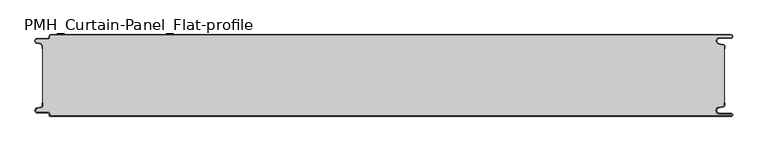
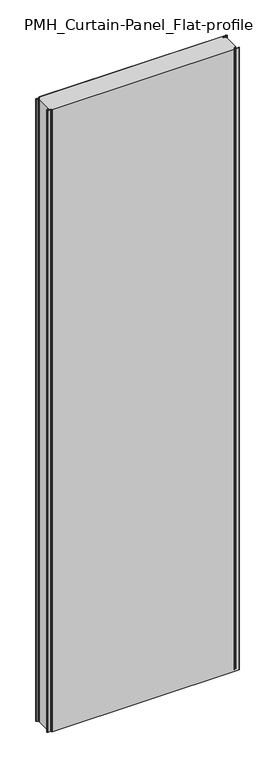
"""IFC4 building model written with IfcOpenShell, lengths in millimetres: plate geometry, PMH_Curtain-Panel_Flat-profile : ACH_PMH_Acoustic-Sectioning-Panel_120M."""

import ifcopenshell
import ifcopenshell.guid

model = None  # the IFC model being written
_history = None  # IfcOwnerHistory: only IFC2X3 demands one
_inside = {}  # id of a spatial element -> (the spatial element, [elements in it])
_under = {}  # id of a project, library or spatial element -> (it, [spatial elements below it])
_declared = {}  # id of a project -> (the project, [libraries it declares])
_typed = {}  # id of a type object -> (the type object, [elements of that type])
_made_of = {}  # id of a material, layer set ... -> (it, [elements and type objects made of it])


def new_model(schema):
    """Start an empty IFC model of exactly this schema.

    Asked for "IFC4X3", IfcOpenShell would pick the latest addendum, in which some entities
    have other attributes; the version numbers below select the first issue.
    IFC2X3 requires an IfcOwnerHistory on every rooted entity: one is made here for all.
    """
    global model, _history
    if schema == "IFC4X3":
        model = ifcopenshell.file(schema_version=(4, 3, 0, 0))
    else:
        model = ifcopenshell.file(schema=schema)
    _inside.clear()
    _under.clear()
    _declared.clear()
    _typed.clear()
    _made_of.clear()
    _history = None
    if model.schema == "IFC2X3":
        org = make("IfcOrganization", Name="unknown")
        user = make(
            "IfcPersonAndOrganization",
            ThePerson=make("IfcPerson", FamilyName="unknown"),
            TheOrganization=org,
        )
        app = make(
            "IfcApplication",
            ApplicationDeveloper=org,
            Version="unknown",
            ApplicationFullName="unknown",
            ApplicationIdentifier="unknown",
        )
        _history = make(
            "IfcOwnerHistory",
            OwningUser=user,
            OwningApplication=app,
            ChangeAction="ADDED",
            CreationDate=0,
        )
    return model


def make(cls, **values):
    """One entity of the class cls with the attributes given. An attribute that is None is left unset."""
    return model.create_entity(
        cls, **{name: value for name, value in values.items() if value is not None}
    )


def rooted(cls, **values):
    """An entity with a GlobalId (a new one), such as an element, a storey or a relation."""
    return make(cls, GlobalId=ifcopenshell.guid.new(), OwnerHistory=_history, **values)


def si_unit(unit_type, name, prefix=None):
    """IfcSIUnit, for example si_unit("LENGTHUNIT", "METRE", prefix="MILLI")."""
    return make("IfcSIUnit", UnitType=unit_type, Prefix=prefix, Name=name)


def assignment(units):
    """IfcUnitAssignment: the units of a project."""
    return None if units is None else make("IfcUnitAssignment", Units=units)


def point(xyz):
    """IfcCartesianPoint."""
    return None if xyz is None else make("IfcCartesianPoint", Coordinates=xyz)


def direction(xyz):
    """IfcDirection."""
    return None if xyz is None else make("IfcDirection", DirectionRatios=xyz)


def frame(location, z_axis=None, x_axis=None):
    """IfcAxis2Placement3D, a coordinate frame: its origin and axes. An axis left out is left unset."""
    return make(
        "IfcAxis2Placement3D",
        Location=point(location),
        Axis=direction(z_axis),
        RefDirection=direction(x_axis),
    )


def frame_2d(location, x_axis=None):
    """IfcAxis2Placement2D, a coordinate frame in the plane: its origin and x axis."""
    return make(
        "IfcAxis2Placement2D", Location=point(location), RefDirection=direction(x_axis)
    )


def origin():
    """The frame at (0, 0, 0) with its axes left unset."""
    return frame((0.0, 0.0, 0.0))


def origin_with_axes():
    """The frame at (0, 0, 0) with the z axis (0, 0, 1) and the x axis (1, 0, 0) written out."""
    return frame((0.0, 0.0, 0.0), z_axis=(0.0, 0.0, 1.0), x_axis=(1.0, 0.0, 0.0))


def place(relative_to, where):
    """IfcLocalPlacement: puts the frame where relative to a parent placement (None: the world)."""
    return make(
        "IfcLocalPlacement", PlacementRelTo=relative_to, RelativePlacement=where
    )


def context(
    kind, dimensions, precision=None, world=None, true_north=None, identifier=None
):
    """IfcGeometricRepresentationContext, for example the 3D "Model" context."""
    return make(
        "IfcGeometricRepresentationContext",
        ContextIdentifier=identifier,
        ContextType=kind,
        CoordinateSpaceDimension=dimensions,
        Precision=precision,
        WorldCoordinateSystem=world,
        TrueNorth=true_north,
    )


def project(units=None, contexts=None):
    """IfcProject with its units and contexts."""
    return rooted(
        "IfcProject",
        Name="project",
        RepresentationContexts=contexts,
        UnitsInContext=assignment(units),
    )


def spatial(cls, under=None, at=None, **own):
    """A site, building, storey or space (cls), placed at a placement, below another one or the project."""
    s = rooted(cls, ObjectPlacement=at, **own)
    if under is not None:
        _under.setdefault(under.id(), (under, []))[1].append(s)
    return s


def polyline(points):
    """IfcPolyline through the points."""
    return make("IfcPolyline", Points=[point(p) for p in points])


def circle_curve(where, radius):
    """IfcCircle in the frame where."""
    return make("IfcCircle", Position=where, Radius=radius)


def trimmed(basis, trim1, trim2, sense, master):
    """IfcTrimmedCurve: the piece of a basis curve between two trims."""
    return make(
        "IfcTrimmedCurve",
        BasisCurve=basis,
        Trim1=trim1,
        Trim2=trim2,
        SenseAgreement=sense,
        MasterRepresentation=master,
    )


def segment(curve, same_sense, transition):
    """IfcCompositeCurveSegment."""
    return make(
        "IfcCompositeCurveSegment",
        Transition=transition,
        SameSense=same_sense,
        ParentCurve=curve,
    )


def composite_curve(segments, self_intersect=None):
    """IfcCompositeCurve: segments joined end to end."""
    return make("IfcCompositeCurve", Segments=segments, SelfIntersect=self_intersect)


def outline(outer, holes=None, kind="AREA"):
    """IfcArbitraryClosedProfileDef: a profile drawn as a closed curve; with holes, ...WithVoids."""
    if holes is None:
        return make("IfcArbitraryClosedProfileDef", ProfileType=kind, OuterCurve=outer)
    return make(
        "IfcArbitraryProfileDefWithVoids",
        ProfileType=kind,
        OuterCurve=outer,
        InnerCurves=holes,
    )


def extrude(swept, where, along, depth):
    """IfcExtrudedAreaSolid: the profile swept, set in the frame where, extruded along a direction by depth."""
    return make(
        "IfcExtrudedAreaSolid",
        SweptArea=swept,
        Position=where,
        ExtrudedDirection=direction(along),
        Depth=depth,
    )


def shape(context_of_items, identifier, shape_type, items):
    """IfcShapeRepresentation: the items that make up one representation, for example the "Body"."""
    return make(
        "IfcShapeRepresentation",
        ContextOfItems=context_of_items,
        RepresentationIdentifier=identifier,
        RepresentationType=shape_type,
        Items=items,
    )


def source(mapping_origin, context_of_items, identifier, shape_type, items):
    """IfcRepresentationMap: a shape defined once, which mapped items show again and again."""
    return make(
        "IfcRepresentationMap",
        MappingOrigin=mapping_origin,
        MappedRepresentation=shape(context_of_items, identifier, shape_type, items),
    )


def transform(
    local_origin,
    x_axis=None,
    y_axis=None,
    z_axis=None,
    scale=None,
    scale2=None,
    scale3=None,
    uniform=True,
):
    """IfcCartesianTransformationOperator3D, or its non-uniform kind. x_axis, y_axis, z_axis: its Axis1, 2, 3."""
    if uniform:
        return make(
            "IfcCartesianTransformationOperator3D",
            Axis1=direction(x_axis),
            Axis2=direction(y_axis),
            LocalOrigin=point(local_origin),
            Scale=scale,
            Axis3=direction(z_axis),
        )
    return make(
        "IfcCartesianTransformationOperator3DnonUniform",
        Axis1=direction(x_axis),
        Axis2=direction(y_axis),
        LocalOrigin=point(local_origin),
        Scale=scale,
        Axis3=direction(z_axis),
        Scale2=scale2,
        Scale3=scale3,
    )


def mapped(mapping_source, mapping_target):
    """IfcMappedItem: shows the shape of a source again, moved by a transform."""
    return make(
        "IfcMappedItem", MappingSource=mapping_source, MappingTarget=mapping_target
    )


def made_of(thing, what):
    """Note that an element or type object is made of a material, layer set ...; save() writes the relation."""
    if what is not None:
        _made_of.setdefault(what.id(), (what, []))[1].append(thing)
    return thing


def element(
    cls,
    number,
    at=None,
    inside=None,
    cuts=None,
    type_object=None,
    material=None,
    context=None,
    identifier="Body",
    shape_type=None,
    held_by="IfcProductDefinitionShape",
    body=None,
    shapes=None,
    **own,
):
    """One element of the class cls, such as IfcWall. Its Tag is "e" and its number.

    at: its placement. inside: the storey or other place that contains it. cuts: it is an
    opening in that element (IfcRelVoidsElement). A single representation is given by context,
    identifier, shape_type and body (its items); several are given by shapes. held_by: the class
    of the entity that holds the representations. save() writes the other relations.
    """
    e = rooted(cls, Tag="e%d" % number, ObjectPlacement=at, **own)
    if body is not None:
        shapes = [shape(context, identifier, shape_type, body)]
    if shapes is not None:
        e.Representation = make(held_by, Representations=shapes)
    if inside is not None:
        _inside.setdefault(inside.id(), (inside, []))[1].append(e)
    if cuts is not None:
        rooted(
            "IfcRelVoidsElement", RelatingBuildingElement=cuts, RelatedOpeningElement=e
        )
    if type_object is not None:
        _typed.setdefault(type_object.id(), (type_object, []))[1].append(e)
    return made_of(e, material)


def aggregate(whole, parts):
    """IfcRelAggregates: a whole, such as a stair, and the parts it consists of."""
    return rooted("IfcRelAggregates", RelatingObject=whole, RelatedObjects=parts)


def save(model, path):
    """Write the relations noted so far, then the file.

    IfcRelAggregates (storeys below a building ...), IfcRelContainedInSpatialStructure (elements
    in a storey), IfcRelDefinesByType, IfcRelAssociatesMaterial and IfcRelDeclares: one each for
    every whole, place, type object, material and project.
    """
    for whole, parts in _under.values():
        aggregate(whole, parts)
    for where, things in _inside.values():
        rooted(
            "IfcRelContainedInSpatialStructure",
            RelatedElements=things,
            RelatingStructure=where,
        )
    for kind, things in _typed.values():
        rooted("IfcRelDefinesByType", RelatedObjects=things, RelatingType=kind)
    for what, things in _made_of.values():
        rooted("IfcRelAssociatesMaterial", RelatedObjects=things, RelatingMaterial=what)
    for by, libraries in _declared.values():
        rooted("IfcRelDeclares", RelatingContext=by, RelatedDefinitions=libraries)
    model.write(path)


def plane_surface(at):
    """IfcPlane: the flat surface through the origin of the frame at, square to its z axis."""
    return make("IfcPlane", Position=at)


def cylinder_surface(at, radius):
    """IfcCylindricalSurface: all points at the distance radius from the z axis of the frame at."""
    return make("IfcCylindricalSurface", Position=at, Radius=radius)


def revolved_surface(curve, axis_point, axis_direction):
    """IfcSurfaceOfRevolution: the curve turned about the line through axis_point along axis_direction."""
    return make(
        "IfcSurfaceOfRevolution",
        SweptCurve=make("IfcArbitraryOpenProfileDef", ProfileType="CURVE", Curve=curve),
        AxisPosition=make("IfcAxis1Placement", Location=point(axis_point), Axis=direction(axis_direction)),
    )


def advanced_brep(points, edges, surfaces, faces):
    """IfcAdvancedBrep: a solid bounded by faces that lie on surfaces and meet in shared edges.

    An edge is (start, end): straight between two places in points (the first is 0);
    or (start, end, curve); or (start, end, curve, False) where it runs against its curve.
    A face is (place in surfaces, loops), or (place, loops, False) where it looks against
    its surface's normal. A loop lists edges by number (the first is 1), with a minus sign
    where the edge is run from its end to its start. The first loop is the outer one.
    """
    corners = [point(p) for p in points]
    vertices = [make("IfcVertexPoint", VertexGeometry=c) for c in corners]
    made = []
    for start, end, *more in edges:
        made.append(
            make(
                "IfcEdgeCurve",
                EdgeStart=vertices[start],
                EdgeEnd=vertices[end],
                EdgeGeometry=more[0] if more else make("IfcPolyline", Points=[corners[start], corners[end]]),
                SameSense=more[1] if len(more) > 1 else True,
            )
        )
    hull = []
    for where, loops, *sense in faces:
        bounds = []
        for j, loop in enumerate(loops):
            ring = [make("IfcOrientedEdge", EdgeElement=made[abs(k) - 1], Orientation=k > 0) for k in loop]
            bounds.append(
                make(
                    "IfcFaceOuterBound" if j == 0 else "IfcFaceBound",
                    Bound=make("IfcEdgeLoop", EdgeList=ring),
                    Orientation=True,
                )
            )
        hull.append(make("IfcAdvancedFace", Bounds=bounds, FaceSurface=surfaces[where], SameSense=sense[0] if sense else True))
    return make("IfcAdvancedBrep", Outer=make("IfcClosedShell", CfsFaces=hull))


def pmh_curtain_panel_flat_profile_d1ff0061(model_context):
    return source(origin(), model_context, "Body", "SolidModel", [
        advanced_brep(
        [(508.1, 0.0, 3500.0), (510.6, 2.5000002, 3500.0), (508.1, 5.0, 3500.0), (491.1, 5.0, 3500.0), (490.405407, 12.939231, 3500.0), (496.8514855, 14.0758491, 3500.0), (499.0, 16.6363492, 3500.0), (499.0, 20.0, 3500.0), (498.2, 20.0, 3500.0), (498.2, 16.6363492, 3500.0), (496.7125669, 14.8636953, 3500.0), (490.2664884, 13.7270771, 3500.0), (491.1, 4.2, 3500.0), (508.1, 4.2, 3500.0), (508.1, 0.8, 3500.0), (-487.4, 0.8, 3500.0), (-488.6, 2.0, 3500.0), (-488.6, 3.4, 3500.0), (-491.4, 6.2, 3500.0), (-506.9, 6.2, 3500.0), (-507.529863, 11.7282362, 3500.0), (-501.370137, 13.150321, 3500.0), (-499.2, 15.878557, 3500.0), (-499.2, 20.0, 3500.0), (-500.0, 20.0, 3500.0), (-500.0, 15.878557, 3500.0), (-501.5500978, 13.9298169, 3500.0), (-507.7098239, 12.507732, 3500.0), (-506.9, 5.4, 3500.0), (-491.4, 5.4, 3500.0), (-489.4, 3.4, 3500.0), (-489.4, 2.0, 3500.0), (-487.4, 0.0, 3500.0), (-487.4, 0.0, 0.0), (-489.4, 2.0, 0.0), (-489.4, 3.4, 0.0), (-491.4, 5.4, 0.0), (-506.9, 5.4, 0.0), (-507.7098239, 12.5077322, 0.0), (-501.5500979, 13.929817, 0.0), (-500.0, 15.878557, 0.0), (-500.0, 20.0, 0.0), (-499.2, 20.0, 0.0), (-499.2, 15.878557, 0.0), (-501.370137, 13.1503208, 0.0), (-507.529863, 11.728236, 0.0), (-506.9, 6.2, 0.0), (-491.4, 6.2, 0.0), (-488.6, 3.4, 0.0), (-488.6, 2.0, 0.0), (-487.4, 0.8, 0.0), (508.1, 0.8, 0.0), (508.1, 4.2, 0.0), (491.1, 4.2, 0.0), (490.2664884, 13.7270771, 0.0), (496.7125669, 14.8636953, 0.0), (498.2, 16.6363492, 0.0), (498.2, 20.0, 0.0), (499.0, 20.0, 0.0), (499.0, 16.6363492, 0.0), (496.8514855, 14.0758491, 0.0), (490.405407, 12.939231, 0.0), (491.1, 5.0, 0.0), (508.1, 5.0, 0.0), (510.6, 2.4999998, 0.0), (508.1, 0.0, 0.0)],
        [
            (0, 1, circle_curve(frame((508.1, 2.5, 3500.0), z_axis=(0.0, 0.0, 1.0), x_axis=(1.0, 0.0, 0.0)), 2.5)),
            (1, 2, circle_curve(frame((508.1, 2.5, 3500.0), z_axis=(0.0, 0.0, 1.0), x_axis=(1.0, 0.0, 0.0)), 2.5)),
            (2, 3),
            (3, 4, circle_curve(frame((491.1, 9.0, 3500.0), z_axis=(0.0, 0.0, -1.0), x_axis=(1.0, 0.0, 0.0)), 4.0)),
            (4, 5),
            (5, 6, circle_curve(frame((496.4, 16.6363492, 3500.0), z_axis=(0.0, 0.0, 1.0), x_axis=(1.0, 0.0, 0.0)), 2.6)),
            (6, 7),
            (7, 8),
            (8, 9),
            (9, 10, circle_curve(frame((496.4, 16.6363492, 3500.0), z_axis=(0.0, 0.0, -1.0), x_axis=(1.0, 0.0, 0.0)), 1.8)),
            (10, 11),
            (11, 12, circle_curve(frame((491.1, 9.0, 3500.0), z_axis=(0.0, 0.0, 1.0), x_axis=(1.0, 0.0, 0.0)), 4.8)),
            (12, 13),
            (13, 14, circle_curve(frame((508.1, 2.5, 3500.0), z_axis=(0.0, 0.0, -1.0), x_axis=(1.0, 0.0, 0.0)), 1.7)),
            (14, 15),
            (15, 16, circle_curve(frame((-487.4, 2.0, 3500.0), z_axis=(0.0, 0.0, -1.0), x_axis=(1.0, 0.0, 0.0)), 1.2)),
            (16, 17),
            (17, 18, circle_curve(frame((-491.4, 3.4, 3500.0), z_axis=(0.0, 0.0, 1.0), x_axis=(1.0, 0.0, 0.0)), 2.8)),
            (18, 19),
            (19, 20, circle_curve(frame((-506.9, 9.0, 3500.0), z_axis=(0.0, 0.0, -1.0), x_axis=(1.0, 0.0, 0.0)), 2.8)),
            (20, 21),
            (21, 22, circle_curve(frame((-502.0, 15.878557, 3500.0), z_axis=(0.0, 0.0, 1.0), x_axis=(1.0, 0.0, 0.0)), 2.8)),
            (22, 23),
            (23, 24),
            (24, 25),
            (25, 26, circle_curve(frame((-502.0, 15.878557, 3500.0), z_axis=(0.0, 0.0, -1.0), x_axis=(1.0, 0.0, 0.0)), 2.0)),
            (26, 27),
            (27, 28, circle_curve(frame((-506.9, 9.0, 3500.0), z_axis=(0.0, 0.0, 1.0), x_axis=(1.0, 0.0, 0.0)), 3.6)),
            (28, 29),
            (29, 30, circle_curve(frame((-491.4, 3.4, 3500.0), z_axis=(0.0, 0.0, -1.0), x_axis=(1.0, 0.0, 0.0)), 2.0)),
            (30, 31),
            (31, 32, circle_curve(frame((-487.4, 2.0, 3500.0), z_axis=(0.0, 0.0, 1.0), x_axis=(1.0, 0.0, 0.0)), 2.0)),
            (32, 0),
            (33, 34, circle_curve(frame((-487.4, 2.0, 0.0), z_axis=(0.0, 0.0, -1.0), x_axis=(1.0, 0.0, 0.0)), 2.0)),
            (34, 35),
            (35, 36, circle_curve(frame((-491.4, 3.4, 0.0), z_axis=(0.0, 0.0, 1.0), x_axis=(1.0, 0.0, 0.0)), 2.0)),
            (36, 37),
            (37, 38, circle_curve(frame((-506.9, 9.0, 0.0), z_axis=(0.0, 0.0, -1.0), x_axis=(1.0, 0.0, 0.0)), 3.6)),
            (38, 39),
            (39, 40, circle_curve(frame((-502.0, 15.878557, 0.0), z_axis=(0.0, 0.0, 1.0), x_axis=(1.0, 0.0, 0.0)), 2.0)),
            (40, 41),
            (41, 42),
            (42, 43),
            (43, 44, circle_curve(frame((-502.0, 15.878557, 0.0), z_axis=(0.0, 0.0, -1.0), x_axis=(1.0, 0.0, 0.0)), 2.8)),
            (44, 45),
            (45, 46, circle_curve(frame((-506.9, 9.0, 0.0), z_axis=(0.0, 0.0, 1.0), x_axis=(1.0, 0.0, 0.0)), 2.8)),
            (46, 47),
            (47, 48, circle_curve(frame((-491.4, 3.4, 0.0), z_axis=(0.0, 0.0, -1.0), x_axis=(1.0, 0.0, 0.0)), 2.8)),
            (48, 49),
            (49, 50, circle_curve(frame((-487.4, 2.0, 0.0), z_axis=(0.0, 0.0, 1.0), x_axis=(1.0, 0.0, 0.0)), 1.2)),
            (50, 51),
            (51, 52, circle_curve(frame((508.1, 2.5, 0.0), z_axis=(0.0, 0.0, 1.0), x_axis=(1.0, 0.0, 0.0)), 1.7)),
            (52, 53),
            (53, 54, circle_curve(frame((491.1, 9.0, 0.0), z_axis=(0.0, 0.0, -1.0), x_axis=(1.0, 0.0, 0.0)), 4.8)),
            (54, 55),
            (55, 56, circle_curve(frame((496.4, 16.6363492, 0.0), z_axis=(0.0, 0.0, 1.0), x_axis=(1.0, 0.0, 0.0)), 1.8)),
            (56, 57),
            (57, 58),
            (58, 59),
            (59, 60, circle_curve(frame((496.4, 16.6363492, 0.0), z_axis=(0.0, 0.0, -1.0), x_axis=(1.0, 0.0, 0.0)), 2.6)),
            (60, 61),
            (61, 62, circle_curve(frame((491.1, 9.0, 0.0), z_axis=(0.0, 0.0, 1.0), x_axis=(1.0, 0.0, 0.0)), 4.0)),
            (62, 63),
            (63, 64, circle_curve(frame((508.1, 2.5, 0.0), z_axis=(0.0, 0.0, -1.0), x_axis=(1.0, 0.0, 0.0)), 2.5)),
            (64, 65, circle_curve(frame((508.1, 2.5, 0.0), z_axis=(0.0, 0.0, -1.0), x_axis=(1.0, 0.0, 0.0)), 2.5)),
            (65, 33),
            (31, 34),
            (33, 32),
            (30, 35),
            (29, 36),
            (28, 37),
            (27, 38),
            (26, 39),
            (25, 40),
            (24, 41),
            (23, 42),
            (22, 43),
            (21, 44),
            (20, 45),
            (19, 46),
            (18, 47),
            (17, 48),
            (16, 49),
            (15, 50),
            (14, 51),
            (13, 52),
            (12, 53),
            (11, 54),
            (10, 55),
            (9, 56),
            (8, 57),
            (7, 58),
            (6, 59),
            (5, 60),
            (4, 61),
            (3, 62),
            (2, 63),
            (0, 65),
        ],
        [
            plane_surface(frame((-500.0, 0.0, 3500.0), z_axis=(0.0, 0.0, 1.0), x_axis=(0.0, -1.0, 0.0))),
            plane_surface(frame((-500.0, 0.0, 0.0), z_axis=(0.0, 0.0, -1.0), x_axis=(0.0, -1.0, 0.0))),
            cylinder_surface(frame((-487.4, 2.0, 3500.0), z_axis=(0.0, 0.0, 1.0), x_axis=(1.0, 0.0, 0.0)), 2.0),
            plane_surface(frame((-489.4, 2.0, 3500.0), z_axis=(-1.0, 0.0, 0.0), x_axis=(0.0, 0.0, -1.0))),
            revolved_surface(polyline([(-489.4, 3.4, 0.0), (-489.4, 3.4, 3500.0)]), (-491.4, 3.4, 3500.0), (0.0, 0.0, -1.0)),
            plane_surface(frame((-491.4, 5.4, 3500.0), z_axis=(0.0, -1.0, 0.0), x_axis=(0.0, 0.0, -1.0))),
            cylinder_surface(frame((-506.9, 9.0, 3500.0), z_axis=(0.0, 0.0, 1.0), x_axis=(1.0, 0.0, 0.0)), 3.6),
            plane_surface(frame((-507.7098239, 12.507732, 3500.0), z_axis=(-0.2249510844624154, 0.9743700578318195, 0.0), x_axis=(0.0, 0.0, -1.0))),
            revolved_surface(polyline([(-500.0, 15.878557, 0.0), (-500.0, 15.878557, 3500.0)]), (-502.0, 15.878557, 3500.0), (0.0, 0.0, -1.0)),
            plane_surface(frame((-500.0, 15.878557, 3500.0), z_axis=(-1.0, 0.0, 0.0), x_axis=(0.0, 0.0, -1.0))),
            plane_surface(frame((-500.0, 20.0, 3500.0), z_axis=(0.0, 1.0, 0.0), x_axis=(0.0, 0.0, -1.0))),
            plane_surface(frame((-499.2, 20.0, 3500.0), z_axis=(1.0, 0.0, 0.0), x_axis=(0.0, 0.0, -1.0))),
            cylinder_surface(frame((-502.0, 15.878557, 3500.0), z_axis=(0.0, 0.0, 1.0), x_axis=(1.0, 0.0, 0.0)), 2.8),
            plane_surface(frame((-501.370137, 13.150321, 3500.0), z_axis=(0.22495108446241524, -0.9743700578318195, 0.0), x_axis=(0.0, 0.0, -1.0))),
            revolved_surface(polyline([(-504.09999999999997, 9.0, 0.0), (-504.09999999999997, 9.0, 3500.0)]), (-506.9, 9.0, 3500.0), (0.0, 0.0, -1.0)),
            plane_surface(frame((-506.9, 6.2, 3500.0), z_axis=(0.0, 1.0, 0.0), x_axis=(0.0, 0.0, -1.0))),
            cylinder_surface(frame((-491.4, 3.4, 3500.0), z_axis=(0.0, 0.0, 1.0), x_axis=(1.0, 0.0, 0.0)), 2.8),
            plane_surface(frame((-488.6, 3.4, 3500.0), z_axis=(1.0, 0.0, 0.0), x_axis=(0.0, 0.0, -1.0))),
            revolved_surface(polyline([(-486.2, 2.0, 0.0), (-486.2, 2.0, 3500.0)]), (-487.4, 2.0, 3500.0), (0.0, 0.0, -1.0)),
            plane_surface(frame((-487.4, 0.8, 3500.0), z_axis=(0.0, 1.0, 0.0), x_axis=(0.0, 0.0, -1.0))),
            revolved_surface(polyline([(509.8, 2.5, 0.0), (509.8, 2.5, 3500.0)]), (508.1, 2.5, 3500.0), (0.0, 0.0, -1.0)),
            plane_surface(frame((508.1, 4.2, 3500.0), z_axis=(0.0, -1.0, 0.0), x_axis=(0.0, 0.0, -1.0))),
            cylinder_surface(frame((491.1, 9.0, 3500.0), z_axis=(0.0, 0.0, 1.0), x_axis=(1.0, 0.0, 0.0)), 4.8),
            plane_surface(frame((490.2664884, 13.7270771, 3500.0), z_axis=(-0.17364826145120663, 0.984807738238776, 0.0), x_axis=(0.0, 0.0, -1.0))),
            revolved_surface(polyline([(498.2, 16.6363492, 0.0), (498.2, 16.6363492, 3500.0)]), (496.4, 16.6363492, 3500.0), (0.0, 0.0, -1.0)),
            plane_surface(frame((498.2, 16.6363492, 3500.0), z_axis=(-1.0, 0.0, 0.0), x_axis=(0.0, 0.0, -1.0))),
            plane_surface(frame((498.2, 20.0, 3500.0), z_axis=(0.0, 1.0, 0.0), x_axis=(0.0, 0.0, -1.0))),
            plane_surface(frame((499.0, 20.0, 3500.0), z_axis=(1.0, 0.0, 0.0), x_axis=(0.0, 0.0, -1.0))),
            cylinder_surface(frame((496.4, 16.6363492, 3500.0), z_axis=(0.0, 0.0, 1.0), x_axis=(1.0, 0.0, 0.0)), 2.6),
            plane_surface(frame((496.8514855, 14.0758491, 3500.0), z_axis=(0.17364826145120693, -0.9848077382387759, 0.0), x_axis=(0.0, 0.0, -1.0))),
            revolved_surface(polyline([(495.1, 9.0, 0.0), (495.1, 9.0, 3500.0)]), (491.1, 9.0, 3500.0), (0.0, 0.0, -1.0)),
            plane_surface(frame((491.1, 5.0, 3500.0), z_axis=(0.0, 1.0, 0.0), x_axis=(0.0, 0.0, -1.0))),
            cylinder_surface(frame((508.1, 2.5, 3500.0), z_axis=(0.0, 0.0, 1.0), x_axis=(1.0, 0.0, 0.0)), 2.5),
            plane_surface(frame((490.5783588, 0.0, 3500.0), z_axis=(0.0, -1.0, 0.0), x_axis=(0.0, 0.0, -1.0))),
        ],
        [
            (0, [[1, 2, 3, 4, 5, 6, 7, 8, 9, 10, 11, 12, 13, 14, 15, 16, 17, 18, 19, 20, 21, 22, 23, 24, 25, 26, 27, 28, 29, 30, 31, 32, 33]]),
            (1, [[34, 35, 36, 37, 38, 39, 40, 41, 42, 43, 44, 45, 46, 47, 48, 49, 50, 51, 52, 53, 54, 55, 56, 57, 58, 59, 60, 61, 62, 63, 64, 65, 66]]),
            (2, [[67, -34, 68, -32]]),
            (3, [[69, -35, -67, -31]]),
            (4, [[70, -36, -69, -30]]),
            (5, [[71, -37, -70, -29]]),
            (6, [[72, -38, -71, -28]]),
            (7, [[73, -39, -72, -27]]),
            (8, [[74, -40, -73, -26]]),
            (9, [[75, -41, -74, -25]]),
            (10, [[76, -42, -75, -24]]),
            (11, [[77, -43, -76, -23]]),
            (12, [[78, -44, -77, -22]]),
            (13, [[79, -45, -78, -21]]),
            (14, [[80, -46, -79, -20]]),
            (15, [[81, -47, -80, -19]]),
            (16, [[82, -48, -81, -18]]),
            (17, [[83, -49, -82, -17]]),
            (18, [[84, -50, -83, -16]]),
            (19, [[85, -51, -84, -15]]),
            (20, [[86, -52, -85, -14]]),
            (21, [[87, -53, -86, -13]]),
            (22, [[88, -54, -87, -12]]),
            (23, [[89, -55, -88, -11]]),
            (24, [[90, -56, -89, -10]]),
            (25, [[91, -57, -90, -9]]),
            (26, [[92, -58, -91, -8]]),
            (27, [[93, -59, -92, -7]]),
            (28, [[94, -60, -93, -6]]),
            (29, [[95, -61, -94, -5]]),
            (30, [[96, -62, -95, -4]]),
            (31, [[97, -63, -96, -3]]),
            (32, [[-2, -1, 98, -65, -64, -97]]),
            (33, [[-68, -66, -98, -33]]),
        ],
    ),
        extrude(outline(composite_curve([segment(trimmed(circle_curve(frame_2d((-502.0, 104.1214426)), 2.8), [point((-499.2, 104.1214426))], [point((-501.370137, 106.8496788))], True, "CARTESIAN"), True, "CONTINUOUS"), segment(polyline([(-501.370137, 106.8496788), (-507.5298631, 108.2717638)]), True, "CONTINUOUS"), segment(trimmed(circle_curve(frame_2d((-506.9, 111.0)), 2.8), [point((-507.5298631, 108.2717638))], [point((-506.9, 113.8))], False, "CARTESIAN"), True, "CONTINUOUS"), segment(polyline([(-506.9, 113.8), (-491.4000001, 113.8)]), True, "CONTINUOUS"), segment(trimmed(circle_curve(frame_2d((-491.4000001, 116.6)), 2.8), [point((-491.4000001, 113.8))], [point((-488.6000001, 116.6))], True, "CARTESIAN"), True, "CONTINUOUS"), segment(polyline([(-488.6000001, 116.6), (-488.6000001, 118.0)]), True, "CONTINUOUS"), segment(trimmed(circle_curve(frame_2d((-487.4000001, 118.0)), 1.2), [point((-488.6000001, 118.0))], [point((-487.4000001, 119.2))], False, "CARTESIAN"), True, "CONTINUOUS"), segment(polyline([(-487.4000001, 119.2), (508.1, 119.2)]), True, "CONTINUOUS"), segment(trimmed(circle_curve(frame_2d((508.1, 117.5)), 1.7), [point((508.1, 119.2))], [point((508.1, 115.8))], False, "CARTESIAN"), True, "CONTINUOUS"), segment(polyline([(508.1, 115.8), (491.1, 115.8)]), True, "CONTINUOUS"), segment(trimmed(circle_curve(frame_2d((491.1, 111.0)), 4.8), [point((491.1, 115.8))], [point((490.2664883, 106.2729229))], True, "CARTESIAN"), True, "CONTINUOUS"), segment(polyline([(490.2664883, 106.2729229), (496.7125668, 105.1363047)]), True, "CONTINUOUS"), segment(trimmed(circle_curve(frame_2d((496.4, 103.3636508)), 1.8), [point((496.7125668, 105.1363047))], [point((498.2, 103.3636508))], False, "CARTESIAN"), True, "CONTINUOUS"), segment(polyline([(498.2, 103.3636508), (498.2, 16.6363492)]), True, "CONTINUOUS"), segment(trimmed(circle_curve(frame_2d((496.4, 16.6363492)), 1.8), [point((498.2, 16.6363492))], [point((496.7125668, 14.8636953))], False, "CARTESIAN"), True, "CONTINUOUS"), segment(polyline([(496.7125668, 14.8636953), (490.2664883, 13.7270771)]), True, "CONTINUOUS"), segment(trimmed(circle_curve(frame_2d((491.1, 9.0)), 4.8), [point((490.2664883, 13.7270771))], [point((491.1, 4.2))], True, "CARTESIAN"), True, "CONTINUOUS"), segment(polyline([(491.1, 4.2), (508.1, 4.2)]), True, "CONTINUOUS"), segment(trimmed(circle_curve(frame_2d((508.1, 2.5)), 1.7), [point((508.1, 4.2))], [point((508.1, 0.8))], False, "CARTESIAN"), True, "CONTINUOUS"), segment(polyline([(508.1, 0.8), (-487.4000001, 0.8)]), True, "CONTINUOUS"), segment(trimmed(circle_curve(frame_2d((-487.4000001, 2.0)), 1.2), [point((-487.4000001, 0.8))], [point((-488.6000001, 2.0))], False, "CARTESIAN"), True, "CONTINUOUS"), segment(polyline([(-488.6000001, 2.0), (-488.6000001, 3.4)]), True, "CONTINUOUS"), segment(trimmed(circle_curve(frame_2d((-491.4000001, 3.4)), 2.8), [point((-488.6000001, 3.4))], [point((-491.4000001, 6.2))], True, "CARTESIAN"), True, "CONTINUOUS"), segment(polyline([(-491.4000001, 6.2), (-506.9, 6.2)]), True, "CONTINUOUS"), segment(trimmed(circle_curve(frame_2d((-506.9, 9.0)), 2.8), [point((-506.9, 6.2))], [point((-507.5298631, 11.7282362))], False, "CARTESIAN"), True, "CONTINUOUS"), segment(polyline([(-507.5298631, 11.7282362), (-501.370137, 13.1503212)]), True, "CONTINUOUS"), segment(trimmed(circle_curve(frame_2d((-502.0, 15.8785573)), 2.8), [point((-501.370137, 13.1503212))], [point((-499.2, 15.8785573))], True, "CARTESIAN"), True, "CONTINUOUS"), segment(polyline([(-499.2, 15.8785573), (-499.2, 104.1214426)]), True, "CONTINUOUS")], self_intersect=False)), origin_with_axes(), (0.0, 0.0, 1.0), 3500.0),
        advanced_brep(
        [(-487.4, 120.0, 3500.0), (-489.4, 118.0, 3500.0), (-489.4, 116.6, 3500.0), (-491.4, 114.6, 3500.0), (-506.9, 114.6, 3500.0), (-507.7098239, 107.4922678, 3500.0), (-501.5500979, 106.070183, 3500.0), (-500.0, 104.121443, 3500.0), (-500.0, 100.0, 3500.0), (-499.2, 100.0, 3500.0), (-499.2, 104.121443, 3500.0), (-501.370137, 106.8496792, 3500.0), (-507.529863, 108.271764, 3500.0), (-506.9, 113.8, 3500.0), (-491.4, 113.8, 3500.0), (-488.6, 116.6, 3500.0), (-488.6, 118.0, 3500.0), (-487.4, 119.2, 3500.0), (508.1, 119.2, 3500.0), (508.1, 115.8, 3500.0), (491.1, 115.8, 3500.0), (490.2664884, 106.2729229, 3500.0), (496.7125669, 105.1363047, 3500.0), (498.2, 103.3636508, 3500.0), (498.2, 100.0, 3500.0), (499.0, 100.0, 3500.0), (499.0, 103.3636508, 3500.0), (496.8514855, 105.9241509, 3500.0), (490.405407, 107.060769, 3500.0), (491.1, 115.0, 3500.0), (508.1, 115.0, 3500.0), (510.6, 117.5000002, 3500.0), (508.1, 120.0, 3500.0), (508.1, 120.0, 0.0), (510.6, 117.4999998, 0.0), (508.1, 115.0, 0.0), (491.1, 115.0, 0.0), (490.405407, 107.060769, 0.0), (496.8514855, 105.9241509, 0.0), (499.0, 103.3636508, 0.0), (499.0, 100.0, 0.0), (498.2, 100.0, 0.0), (498.2, 103.3636508, 0.0), (496.7125669, 105.1363047, 0.0), (490.2664884, 106.2729229, 0.0), (491.1, 115.8, 0.0), (508.1, 115.8, 0.0), (508.1, 119.2, 0.0), (-487.4, 119.2, 0.0), (-488.6, 118.0, 0.0), (-488.6, 116.6, 0.0), (-491.4, 113.8, 0.0), (-506.9, 113.8, 0.0), (-507.529863, 108.2717638, 0.0), (-501.370137, 106.849679, 0.0), (-499.2, 104.121443, 0.0), (-499.2, 100.0, 0.0), (-500.0, 100.0, 0.0), (-500.0, 104.121443, 0.0), (-501.5500978, 106.0701831, 0.0), (-507.7098239, 107.492268, 0.0), (-506.9, 114.6, 0.0), (-491.4, 114.6, 0.0), (-489.4, 116.6, 0.0), (-489.4, 118.0, 0.0), (-487.4, 120.0, 0.0)],
        [
            (0, 1, circle_curve(frame((-487.4, 118.0, 3500.0), z_axis=(0.0, 0.0, 1.0), x_axis=(1.0, 0.0, 0.0)), 2.0)),
            (1, 2),
            (2, 3, circle_curve(frame((-491.4, 116.6, 3500.0), z_axis=(0.0, 0.0, -1.0), x_axis=(1.0, 0.0, 0.0)), 2.0)),
            (3, 4),
            (4, 5, circle_curve(frame((-506.9, 111.0, 3500.0), z_axis=(0.0, 0.0, 1.0), x_axis=(1.0, 0.0, 0.0)), 3.6)),
            (5, 6),
            (6, 7, circle_curve(frame((-502.0, 104.121443, 3500.0), z_axis=(0.0, 0.0, -1.0), x_axis=(1.0, 0.0, 0.0)), 2.0)),
            (7, 8),
            (8, 9),
            (9, 10),
            (10, 11, circle_curve(frame((-502.0, 104.121443, 3500.0), z_axis=(0.0, 0.0, 1.0), x_axis=(1.0, 0.0, 0.0)), 2.8)),
            (11, 12),
            (12, 13, circle_curve(frame((-506.9, 111.0, 3500.0), z_axis=(0.0, 0.0, -1.0), x_axis=(1.0, 0.0, 0.0)), 2.8)),
            (13, 14),
            (14, 15, circle_curve(frame((-491.4, 116.6, 3500.0), z_axis=(0.0, 0.0, 1.0), x_axis=(1.0, 0.0, 0.0)), 2.8)),
            (15, 16),
            (16, 17, circle_curve(frame((-487.4, 118.0, 3500.0), z_axis=(0.0, 0.0, -1.0), x_axis=(1.0, 0.0, 0.0)), 1.2)),
            (17, 18),
            (18, 19, circle_curve(frame((508.1, 117.5, 3500.0), z_axis=(0.0, 0.0, -1.0), x_axis=(1.0, 0.0, 0.0)), 1.7)),
            (19, 20),
            (20, 21, circle_curve(frame((491.1, 111.0, 3500.0), z_axis=(0.0, 0.0, 1.0), x_axis=(1.0, 0.0, 0.0)), 4.8)),
            (21, 22),
            (22, 23, circle_curve(frame((496.4, 103.3636508, 3500.0), z_axis=(0.0, 0.0, -1.0), x_axis=(1.0, 0.0, 0.0)), 1.8)),
            (23, 24),
            (24, 25),
            (25, 26),
            (26, 27, circle_curve(frame((496.4, 103.3636508, 3500.0), z_axis=(0.0, 0.0, 1.0), x_axis=(1.0, 0.0, 0.0)), 2.6)),
            (27, 28),
            (28, 29, circle_curve(frame((491.1, 111.0, 3500.0), z_axis=(0.0, 0.0, -1.0), x_axis=(1.0, 0.0, 0.0)), 4.0)),
            (29, 30),
            (30, 31, circle_curve(frame((508.1, 117.5, 3500.0), z_axis=(0.0, 0.0, 1.0), x_axis=(1.0, 0.0, 0.0)), 2.5)),
            (31, 32, circle_curve(frame((508.1, 117.5, 3500.0), z_axis=(0.0, 0.0, 1.0), x_axis=(1.0, 0.0, 0.0)), 2.5)),
            (32, 0),
            (33, 34, circle_curve(frame((508.1, 117.5, 0.0), z_axis=(0.0, 0.0, -1.0), x_axis=(1.0, 0.0, 0.0)), 2.5)),
            (34, 35, circle_curve(frame((508.1, 117.5, 0.0), z_axis=(0.0, 0.0, -1.0), x_axis=(1.0, 0.0, 0.0)), 2.5)),
            (35, 36),
            (36, 37, circle_curve(frame((491.1, 111.0, 0.0), z_axis=(0.0, 0.0, 1.0), x_axis=(1.0, 0.0, 0.0)), 4.0)),
            (37, 38),
            (38, 39, circle_curve(frame((496.4, 103.3636508, 0.0), z_axis=(0.0, 0.0, -1.0), x_axis=(1.0, 0.0, 0.0)), 2.6)),
            (39, 40),
            (40, 41),
            (41, 42),
            (42, 43, circle_curve(frame((496.4, 103.3636508, 0.0), z_axis=(0.0, 0.0, 1.0), x_axis=(1.0, 0.0, 0.0)), 1.8)),
            (43, 44),
            (44, 45, circle_curve(frame((491.1, 111.0, 0.0), z_axis=(0.0, 0.0, -1.0), x_axis=(1.0, 0.0, 0.0)), 4.8)),
            (45, 46),
            (46, 47, circle_curve(frame((508.1, 117.5, 0.0), z_axis=(0.0, 0.0, 1.0), x_axis=(1.0, 0.0, 0.0)), 1.7)),
            (47, 48),
            (48, 49, circle_curve(frame((-487.4, 118.0, 0.0), z_axis=(0.0, 0.0, 1.0), x_axis=(1.0, 0.0, 0.0)), 1.2)),
            (49, 50),
            (50, 51, circle_curve(frame((-491.4, 116.6, 0.0), z_axis=(0.0, 0.0, -1.0), x_axis=(1.0, 0.0, 0.0)), 2.8)),
            (51, 52),
            (52, 53, circle_curve(frame((-506.9, 111.0, 0.0), z_axis=(0.0, 0.0, 1.0), x_axis=(1.0, 0.0, 0.0)), 2.8)),
            (53, 54),
            (54, 55, circle_curve(frame((-502.0, 104.121443, 0.0), z_axis=(0.0, 0.0, -1.0), x_axis=(1.0, 0.0, 0.0)), 2.8)),
            (55, 56),
            (56, 57),
            (57, 58),
            (58, 59, circle_curve(frame((-502.0, 104.121443, 0.0), z_axis=(0.0, 0.0, 1.0), x_axis=(1.0, 0.0, 0.0)), 2.0)),
            (59, 60),
            (60, 61, circle_curve(frame((-506.9, 111.0, 0.0), z_axis=(0.0, 0.0, -1.0), x_axis=(1.0, 0.0, 0.0)), 3.6)),
            (61, 62),
            (62, 63, circle_curve(frame((-491.4, 116.6, 0.0), z_axis=(0.0, 0.0, 1.0), x_axis=(1.0, 0.0, 0.0)), 2.0)),
            (63, 64),
            (64, 65, circle_curve(frame((-487.4, 118.0, 0.0), z_axis=(0.0, 0.0, -1.0), x_axis=(1.0, 0.0, 0.0)), 2.0)),
            (65, 33),
            (32, 33),
            (65, 0),
            (30, 35),
            (29, 36),
            (28, 37),
            (27, 38),
            (26, 39),
            (25, 40),
            (24, 41),
            (23, 42),
            (22, 43),
            (21, 44),
            (20, 45),
            (19, 46),
            (18, 47),
            (17, 48),
            (16, 49),
            (15, 50),
            (14, 51),
            (13, 52),
            (12, 53),
            (11, 54),
            (10, 55),
            (9, 56),
            (8, 57),
            (7, 58),
            (6, 59),
            (5, 60),
            (4, 61),
            (3, 62),
            (2, 63),
            (1, 64),
        ],
        [
            plane_surface(frame((-500.0, 120.0, 3500.0), z_axis=(0.0, 0.0, 1.0), x_axis=(0.0, -1.0, 0.0))),
            plane_surface(frame((-500.0, 120.0, 0.0), z_axis=(0.0, 0.0, -1.0), x_axis=(0.0, -1.0, 0.0))),
            plane_surface(frame((490.5783588, 120.0, 3500.0), z_axis=(0.0, 1.0, 0.0), x_axis=(0.0, 0.0, -1.0))),
            cylinder_surface(frame((508.1, 117.5, 3500.0), z_axis=(0.0, 0.0, 1.0), x_axis=(1.0, 0.0, 0.0)), 2.5),
            plane_surface(frame((508.1, 115.0, 3500.0), z_axis=(0.0, -1.0, 0.0), x_axis=(0.0, 0.0, -1.0))),
            revolved_surface(polyline([(495.1, 111.0, 0.0), (495.1, 111.0, 3500.0)]), (491.1, 111.0, 3500.0), (0.0, 0.0, -1.0)),
            plane_surface(frame((490.405407, 107.060769, 3500.0), z_axis=(0.17364826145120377, 0.9848077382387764, 0.0), x_axis=(0.0, 0.0, -1.0))),
            cylinder_surface(frame((496.4, 103.3636508, 3500.0), z_axis=(0.0, 0.0, 1.0), x_axis=(1.0, 0.0, 0.0)), 2.6),
            plane_surface(frame((499.0, 103.3636508, 3500.0), z_axis=(1.0, 0.0, 0.0), x_axis=(0.0, 0.0, -1.0))),
            plane_surface(frame((499.0, 100.0, 3500.0), z_axis=(0.0, -1.0, 0.0), x_axis=(0.0, 0.0, -1.0))),
            plane_surface(frame((498.2, 100.0, 3500.0), z_axis=(-1.0, 0.0, 0.0), x_axis=(0.0, 0.0, -1.0))),
            revolved_surface(polyline([(498.2, 103.3636508, 0.0), (498.2, 103.3636508, 3500.0)]), (496.4, 103.3636508, 3500.0), (0.0, 0.0, -1.0)),
            plane_surface(frame((496.7125669, 105.1363047, 3500.0), z_axis=(-0.17364826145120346, -0.9848077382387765, 0.0), x_axis=(0.0, 0.0, -1.0))),
            cylinder_surface(frame((491.1, 111.0, 3500.0), z_axis=(0.0, 0.0, 1.0), x_axis=(1.0, 0.0, 0.0)), 4.8),
            plane_surface(frame((491.1, 115.8, 3500.0), z_axis=(0.0, 1.0, 0.0), x_axis=(0.0, 0.0, -1.0))),
            revolved_surface(polyline([(509.8, 117.5, 0.0), (509.8, 117.5, 3500.0)]), (508.1, 117.5, 3500.0), (0.0, 0.0, -1.0)),
            plane_surface(frame((508.1, 119.2, 3500.0), z_axis=(0.0, -1.0, 0.0), x_axis=(0.0, 0.0, -1.0))),
            revolved_surface(polyline([(-486.2, 118.0, 0.0), (-486.2, 118.0, 3500.0)]), (-487.4, 118.0, 3500.0), (0.0, 0.0, -1.0)),
            plane_surface(frame((-488.6, 118.0, 3500.0), z_axis=(1.0, 0.0, 0.0), x_axis=(0.0, 0.0, -1.0))),
            cylinder_surface(frame((-491.4, 116.6, 3500.0), z_axis=(0.0, 0.0, 1.0), x_axis=(1.0, 0.0, 0.0)), 2.8),
            plane_surface(frame((-491.4, 113.8, 3500.0), z_axis=(0.0, -1.0, 0.0), x_axis=(0.0, 0.0, -1.0))),
            revolved_surface(polyline([(-504.09999999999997, 111.0, 0.0), (-504.09999999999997, 111.0, 3500.0)]), (-506.9, 111.0, 3500.0), (0.0, 0.0, -1.0)),
            plane_surface(frame((-507.529863, 108.271764, 3500.0), z_axis=(0.2249510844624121, 0.9743700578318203, 0.0), x_axis=(0.0, 0.0, -1.0))),
            cylinder_surface(frame((-502.0, 104.121443, 3500.0), z_axis=(0.0, 0.0, 1.0), x_axis=(1.0, 0.0, 0.0)), 2.8),
            plane_surface(frame((-499.2, 104.121443, 3500.0), z_axis=(1.0, 0.0, 0.0), x_axis=(0.0, 0.0, -1.0))),
            plane_surface(frame((-499.2, 100.0, 3500.0), z_axis=(0.0, -1.0, 0.0), x_axis=(0.0, 0.0, -1.0))),
            plane_surface(frame((-500.0, 100.0, 3500.0), z_axis=(-1.0, 0.0, 0.0), x_axis=(0.0, 0.0, -1.0))),
            revolved_surface(polyline([(-500.0, 104.121443, 0.0), (-500.0, 104.121443, 3500.0)]), (-502.0, 104.121443, 3500.0), (0.0, 0.0, -1.0)),
            plane_surface(frame((-501.5500979, 106.070183, 3500.0), z_axis=(-0.22495108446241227, -0.9743700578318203, 0.0), x_axis=(0.0, 0.0, -1.0))),
            cylinder_surface(frame((-506.9, 111.0, 3500.0), z_axis=(0.0, 0.0, 1.0), x_axis=(1.0, 0.0, 0.0)), 3.6),
            plane_surface(frame((-506.9, 114.6, 3500.0), z_axis=(0.0, 1.0, 0.0), x_axis=(0.0, 0.0, -1.0))),
            revolved_surface(polyline([(-489.4, 116.6, 0.0), (-489.4, 116.6, 3500.0)]), (-491.4, 116.6, 3500.0), (0.0, 0.0, -1.0)),
            plane_surface(frame((-489.4, 116.6, 3500.0), z_axis=(-1.0, 0.0, 0.0), x_axis=(0.0, 0.0, -1.0))),
            cylinder_surface(frame((-487.4, 118.0, 3500.0), z_axis=(0.0, 0.0, 1.0), x_axis=(1.0, 0.0, 0.0)), 2.0),
        ],
        [
            (0, [[1, 2, 3, 4, 5, 6, 7, 8, 9, 10, 11, 12, 13, 14, 15, 16, 17, 18, 19, 20, 21, 22, 23, 24, 25, 26, 27, 28, 29, 30, 31, 32, 33]]),
            (1, [[34, 35, 36, 37, 38, 39, 40, 41, 42, 43, 44, 45, 46, 47, 48, 49, 50, 51, 52, 53, 54, 55, 56, 57, 58, 59, 60, 61, 62, 63, 64, 65, 66]]),
            (2, [[67, -66, 68, -33]]),
            (3, [[-32, -31, 69, -35, -34, -67]]),
            (4, [[70, -36, -69, -30]]),
            (5, [[71, -37, -70, -29]]),
            (6, [[72, -38, -71, -28]]),
            (7, [[73, -39, -72, -27]]),
            (8, [[74, -40, -73, -26]]),
            (9, [[75, -41, -74, -25]]),
            (10, [[76, -42, -75, -24]]),
            (11, [[77, -43, -76, -23]]),
            (12, [[78, -44, -77, -22]]),
            (13, [[79, -45, -78, -21]]),
            (14, [[80, -46, -79, -20]]),
            (15, [[81, -47, -80, -19]]),
            (16, [[82, -48, -81, -18]]),
            (17, [[83, -49, -82, -17]]),
            (18, [[84, -50, -83, -16]]),
            (19, [[85, -51, -84, -15]]),
            (20, [[86, -52, -85, -14]]),
            (21, [[87, -53, -86, -13]]),
            (22, [[88, -54, -87, -12]]),
            (23, [[89, -55, -88, -11]]),
            (24, [[90, -56, -89, -10]]),
            (25, [[91, -57, -90, -9]]),
            (26, [[92, -58, -91, -8]]),
            (27, [[93, -59, -92, -7]]),
            (28, [[94, -60, -93, -6]]),
            (29, [[95, -61, -94, -5]]),
            (30, [[96, -62, -95, -4]]),
            (31, [[97, -63, -96, -3]]),
            (32, [[98, -64, -97, -2]]),
            (33, [[-68, -65, -98, -1]]),
        ],
    ),
    ])


if __name__ == "__main__":
    model = new_model("IFC4")
    model_context = context("Model", 3, world=origin())
    ifc_project = project(units=[si_unit("LENGTHUNIT", "METRE", prefix="MILLI")], contexts=[model_context])
    site = spatial("IfcSite", under=ifc_project)
    building = spatial("IfcBuilding", under=site)
    placement = place(None, origin())
    pmh_curtain_panel_flat_profile_shape = pmh_curtain_panel_flat_profile_d1ff0061(model_context)
    element("IfcPlate", 1, ObjectType="PMH_Curtain-Panel_Flat-profile : ACH_PMH_Acoustic-Sectioning-Panel_120M", at=placement, inside=building, context=model_context, shape_type="MappedRepresentation", body=[
        mapped(pmh_curtain_panel_flat_profile_shape, transform((0.0, 0.0, 0.0), x_axis=(1.0, 0.0, 0.0), y_axis=(0.0, 1.0, 0.0), z_axis=(0.0, 0.0, 1.0))),
    ])
    save(model, "model.ifc")
